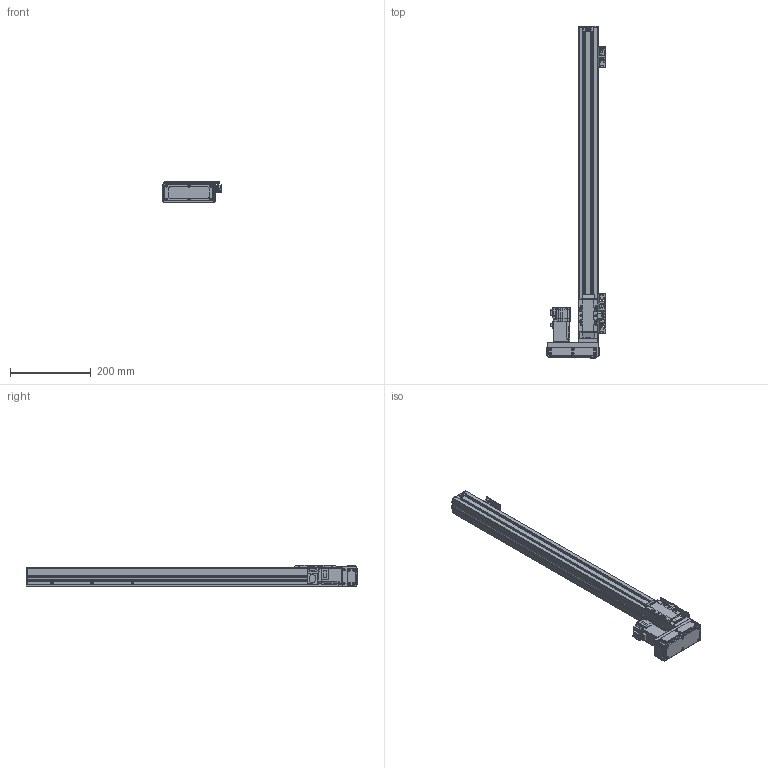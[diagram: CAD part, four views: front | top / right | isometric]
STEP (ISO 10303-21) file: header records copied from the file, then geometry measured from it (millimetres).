
FILE_DESCRIPTION(/* description */ (''),/* implementation_level */ '2;1');
FILE_NAME(/* name */ '\\192.168.0.160\disk1\HAN SHIN Master\B-설계부문\C-표준\B-2024년\BC02-표준도면\+로봇 개선표준도면\홈페이지 표준 도면\표준 승인도 폴더 - 재작업\3D\HC Type\HC50 - 재작업\L-Type\HC50-L10-N-0650-R10.stp',/* time_stamp */ '2024-11-29T11:24:07+09:00',/* author */ ('user'),/* organization */ (''),/* preprocessor_version */ 'ST-DEVELOPER v18.1',/* originating_system */ 'Autodesk Inventor 2022',/* authorisation */ '');
FILE_SCHEMA (('AUTOMOTIVE_DESIGN { 1 0 10303 214 3 1 1 }'));
Length unit declared in the file: millimetre
Products named in the file (27): HC50-L10-N-0200-R10; HC50 BASE-R1; HC50 REAR BLOCK; HR45 FRONT BLOCK; 45- BEARING COVER; SENSOR DOG BRK; HC50 SENSOR DOG; ISO 4762 - M3 x 16; HC45 UPCOVER; HC75,90 SHEET PLATE; HC45, HC65 STOPPER; MAGNET(∅10X3); HC50 REAR COVER-R3; SENSOR BRK(EE-SX674A); EE_SX674A; ESF1210 NUT; HC45 TABLE; HC75 TABLE COVER; HC45 TABLE SIDE COVER; hg-kr13_; HR45 ACRYL COVER(측면); HR45 MOTOR PLATE 100W; HC50 L MOTOR PLATE; HR45 ACRYL COVER(정면); HR45 LR BELT COVER; HR45 ACRYL COVER(상하면); HC50SIDECOVER000
Assembly tree (38 placements, depth 2):
  HC50-L10-N-0200-R10
    HC50 BASE-R1
    HC50 REAR BLOCK
    HR45 FRONT BLOCK
    45- BEARING COVER
    SENSOR BRK(EE-SX674A)  x3
    EE_SX674A  x3
    SENSOR DOG BRK
    HC50 SENSOR DOG
    ISO 4762 - M3 x 16  x2
    HC45 UPCOVER
    HC75,90 SHEET PLATE  x2
    HC45, HC65 STOPPER  x2
    MAGNET(∅10X3)  x3
    HC50 REAR COVER-R3
    ESF1210 NUT
    HC50SIDECOVER000  x2
    HC45 TABLE SIDE COVER  x2
    HC45 TABLE
    HC75 TABLE COVER
    hg-kr13_
    HR45 ACRYL COVER(측면)
    HR45 MOTOR PLATE 100W
    HC50 L MOTOR PLATE
    HR45 ACRYL COVER(정면)
    HR45 ACRYL COVER(상하면)  x2
    HR45 LR BELT COVER
Bounding box: 148.5 x 823 x 54 mm (x, y, z)
Volume: 838945.3 mm3; surface area: 582335.3 mm2
Topology: 40 solids, 40 shells, 1581 faces, 4223 edges, 2772 vertices
Faces by surface type: plane 866, cylinder 614, cone 88, bspline 9, torus 4
Full cylindrical faces by diameter (mm): 2.013 x4, 2.459 x97, 3 x2, 3.242 x28, 3.4 x32, 3.5 x44, 4 x12, 4.5 x12, 5 x14, 5.5 x2, 5.6 x2, 5.9 x2, 6 x21, 6.5 x2, 8 x1, 9 x2, 10 x4, 10.5 x1, 12 x1, 15 x3, 17 x1, 18 x1, 21 x2, 22 x4, 24 x1, 24.5 x1, 26 x1, 30 x2
Entity records: 41138 total; most frequent: CARTESIAN_POINT 7864, DIRECTION 6777, ORIENTED_EDGE 6494, EDGE_CURVE 3247, AXIS2_PLACEMENT_3D 2313, VERTEX_POINT 2155, LINE 2151, VECTOR 2151
